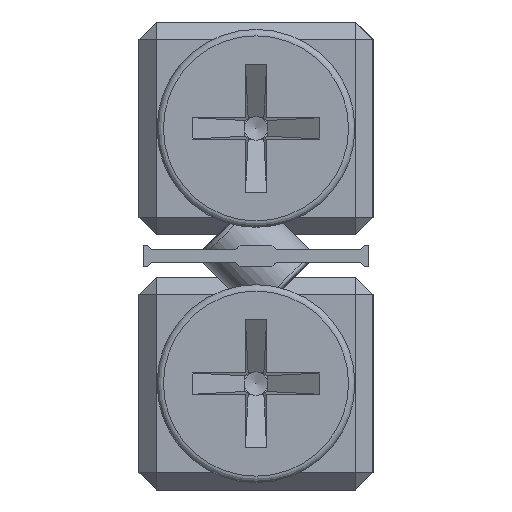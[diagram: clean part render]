
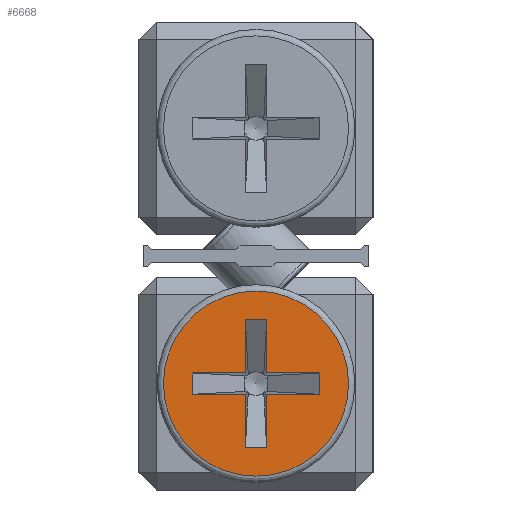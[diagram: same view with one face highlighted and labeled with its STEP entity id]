
A CAD part, left-side view. The second image highlights one B-rep face of the part: STEP entity #6668.
In plain terms, the highlighted planar face has unit normal (-1, 0, 0).
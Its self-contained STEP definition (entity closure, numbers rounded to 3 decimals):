
#134 = CARTESIAN_POINT ( 'NONE',  ( -122., -3., 4.5 ) ) ;
#184 = ORIENTED_EDGE ( 'NONE', *, *, #17840, .T. ) ;
#492 = CARTESIAN_POINT ( 'NONE',  ( -122., -0.5, 5.5 ) ) ;
#641 = CARTESIAN_POINT ( 'NONE',  ( -122., 3., 4.5 ) ) ;
#872 = DIRECTION ( 'NONE',  ( 0., -1., 0. ) ) ;
#980 = VECTOR ( 'NONE', #1350, 1000. ) ;
#1247 = CARTESIAN_POINT ( 'NONE',  ( -122., -3., 5.5 ) ) ;
#1350 = DIRECTION ( 'NONE',  ( 0., 0., 1. ) ) ;
#1475 = CARTESIAN_POINT ( 'NONE',  ( -122., -3., 4.5 ) ) ;
#1591 = LINE ( 'NONE', #12354, #20165 ) ;
#1628 = VERTEX_POINT ( 'NONE', #22168 ) ;
#2285 = DIRECTION ( 'NONE',  ( 1., 0., 0. ) ) ;
#2554 = EDGE_CURVE ( 'NONE', #12954, #13789, #15596, .T. ) ;
#2721 = CARTESIAN_POINT ( 'NONE',  ( -122., 0.5, 2. ) ) ;
#3887 = EDGE_CURVE ( 'NONE', #17041, #6264, #7364, .T. ) ;
#4126 = CIRCLE ( 'NONE', #12129, 4.35 ) ;
#4462 = CARTESIAN_POINT ( 'NONE',  ( -122., 3., 5.5 ) ) ;
#4594 = EDGE_CURVE ( 'NONE', #11385, #22025, #7190, .T. ) ;
#4683 = ORIENTED_EDGE ( 'NONE', *, *, #17734, .T. ) ;
#4940 = ORIENTED_EDGE ( 'NONE', *, *, #12789, .T. ) ;
#4975 = DIRECTION ( 'NONE',  ( 0., 0., -1. ) ) ;
#5082 = ORIENTED_EDGE ( 'NONE', *, *, #22838, .T. ) ;
#5207 = VERTEX_POINT ( 'NONE', #7359 ) ;
#5209 = DIRECTION ( 'NONE',  ( -1., 0., 0. ) ) ;
#5310 = DIRECTION ( 'NONE',  ( 0., 0., -1. ) ) ;
#5389 = DIRECTION ( 'NONE',  ( 0., 1., 0. ) ) ;
#5461 = VECTOR ( 'NONE', #10229, 1000. ) ;
#5525 = ORIENTED_EDGE ( 'NONE', *, *, #3887, .T. ) ;
#5684 = DIRECTION ( 'NONE',  ( 0., -1., 0. ) ) ;
#5730 = EDGE_CURVE ( 'NONE', #14749, #1628, #20899, .T. ) ;
#5864 = FACE_OUTER_BOUND ( 'NONE', #17237, .T. ) ;
#5990 = DIRECTION ( 'NONE',  ( 0., 0., -1. ) ) ;
#6264 = VERTEX_POINT ( 'NONE', #9269 ) ;
#6341 = VECTOR ( 'NONE', #5310, 1000. ) ;
#6439 = DIRECTION ( 'NONE',  ( 0., -1., 0. ) ) ;
#6546 = LINE ( 'NONE', #8561, #20491 ) ;
#6668 = ADVANCED_FACE ( 'NONE', ( #5864, #20438 ), #11390, .F. ) ;
#6752 = DIRECTION ( 'NONE',  ( 0., 1., 0. ) ) ;
#7029 = VECTOR ( 'NONE', #11337, 1000. ) ;
#7190 = LINE ( 'NONE', #134, #12798 ) ;
#7319 = CARTESIAN_POINT ( 'NONE',  ( -122., 0.5, 2. ) ) ;
#7359 = CARTESIAN_POINT ( 'NONE',  ( -122., 3., 5.5 ) ) ;
#7364 = LINE ( 'NONE', #20840, #18136 ) ;
#7424 = VERTEX_POINT ( 'NONE', #20268 ) ;
#8561 = CARTESIAN_POINT ( 'NONE',  ( -122., 0.5, 2. ) ) ;
#8700 = ORIENTED_EDGE ( 'NONE', *, *, #8792, .F. ) ;
#8792 = EDGE_CURVE ( 'NONE', #5207, #14447, #1591, .T. ) ;
#8842 = ORIENTED_EDGE ( 'NONE', *, *, #5730, .T. ) ;
#8886 = DIRECTION ( 'NONE',  ( 0., 0., -1. ) ) ;
#8967 = CARTESIAN_POINT ( 'NONE',  ( -122., 0., 0.65 ) ) ;
#9269 = CARTESIAN_POINT ( 'NONE',  ( -122., 0.5, 4.5 ) ) ;
#9284 = LINE ( 'NONE', #14544, #7029 ) ;
#9509 = CARTESIAN_POINT ( 'NONE',  ( -122., 3., 5.5 ) ) ;
#9944 = EDGE_LOOP ( 'NONE', ( #8842, #17706, #11452, #184, #13796, #11056, #10651, #11834, #5525, #5082, #8700, #4683 ) ) ;
#10021 = DIRECTION ( 'NONE',  ( 0., 0., 1. ) ) ;
#10229 = DIRECTION ( 'NONE',  ( 0., 0., -1. ) ) ;
#10651 = ORIENTED_EDGE ( 'NONE', *, *, #20698, .T. ) ;
#10775 = EDGE_CURVE ( 'NONE', #12954, #1628, #9284, .T. ) ;
#10827 = CARTESIAN_POINT ( 'NONE',  ( -122., 0., 5. ) ) ;
#11056 = ORIENTED_EDGE ( 'NONE', *, *, #4594, .T. ) ;
#11337 = DIRECTION ( 'NONE',  ( 0., 1., 0. ) ) ;
#11385 = VERTEX_POINT ( 'NONE', #11733 ) ;
#11390 = PLANE ( 'NONE',  #22955 ) ;
#11452 = ORIENTED_EDGE ( 'NONE', *, *, #2554, .T. ) ;
#11733 = CARTESIAN_POINT ( 'NONE',  ( -122., -3., 4.5 ) ) ;
#11834 = ORIENTED_EDGE ( 'NONE', *, *, #21321, .F. ) ;
#12129 = AXIS2_PLACEMENT_3D ( 'NONE', #10827, #5209, #4975 ) ;
#12354 = CARTESIAN_POINT ( 'NONE',  ( -122., 3., 5.5 ) ) ;
#12439 = VERTEX_POINT ( 'NONE', #8967 ) ;
#12789 = EDGE_CURVE ( 'NONE', #12439, #12439, #4126, .T. ) ;
#12798 = VECTOR ( 'NONE', #5389, 1000. ) ;
#12954 = VERTEX_POINT ( 'NONE', #13229 ) ;
#12976 = LINE ( 'NONE', #9509, #18525 ) ;
#13214 = EDGE_CURVE ( 'NONE', #11385, #22844, #13908, .T. ) ;
#13229 = CARTESIAN_POINT ( 'NONE',  ( -122., -0.5, 8. ) ) ;
#13675 = VECTOR ( 'NONE', #10021, 1000. ) ;
#13789 = VERTEX_POINT ( 'NONE', #492 ) ;
#13796 = ORIENTED_EDGE ( 'NONE', *, *, #13214, .F. ) ;
#13891 = LINE ( 'NONE', #4462, #22733 ) ;
#13908 = LINE ( 'NONE', #1475, #980 ) ;
#14447 = VERTEX_POINT ( 'NONE', #641 ) ;
#14544 = CARTESIAN_POINT ( 'NONE',  ( -122., -0.5, 8. ) ) ;
#14749 = VERTEX_POINT ( 'NONE', #18414 ) ;
#15596 = LINE ( 'NONE', #19527, #5461 ) ;
#17041 = VERTEX_POINT ( 'NONE', #7319 ) ;
#17237 = EDGE_LOOP ( 'NONE', ( #4940 ) ) ;
#17624 = CARTESIAN_POINT ( 'NONE',  ( -122., -3., 4.5 ) ) ;
#17706 = ORIENTED_EDGE ( 'NONE', *, *, #10775, .F. ) ;
#17734 = EDGE_CURVE ( 'NONE', #5207, #14749, #12976, .T. ) ;
#17840 = EDGE_CURVE ( 'NONE', #13789, #22844, #13891, .T. ) ;
#18136 = VECTOR ( 'NONE', #22631, 1000. ) ;
#18414 = CARTESIAN_POINT ( 'NONE',  ( -122., 0.5, 5.5 ) ) ;
#18525 = VECTOR ( 'NONE', #5684, 1000. ) ;
#18658 = CARTESIAN_POINT ( 'NONE',  ( -122., 4.65, 5. ) ) ;
#19409 = LINE ( 'NONE', #17624, #20898 ) ;
#19527 = CARTESIAN_POINT ( 'NONE',  ( -122., -0.5, 8. ) ) ;
#20165 = VECTOR ( 'NONE', #8886, 1000. ) ;
#20268 = CARTESIAN_POINT ( 'NONE',  ( -122., -0.5, 2. ) ) ;
#20438 = FACE_BOUND ( 'NONE', #9944, .T. ) ;
#20491 = VECTOR ( 'NONE', #6439, 1000. ) ;
#20698 = EDGE_CURVE ( 'NONE', #22025, #7424, #21419, .T. ) ;
#20840 = CARTESIAN_POINT ( 'NONE',  ( -122., 0.5, 2. ) ) ;
#20898 = VECTOR ( 'NONE', #6752, 1000. ) ;
#20899 = LINE ( 'NONE', #2721, #13675 ) ;
#21321 = EDGE_CURVE ( 'NONE', #17041, #7424, #6546, .T. ) ;
#21419 = LINE ( 'NONE', #22983, #6341 ) ;
#22025 = VERTEX_POINT ( 'NONE', #22732 ) ;
#22168 = CARTESIAN_POINT ( 'NONE',  ( -122., 0.5, 8. ) ) ;
#22631 = DIRECTION ( 'NONE',  ( 0., 0., 1. ) ) ;
#22732 = CARTESIAN_POINT ( 'NONE',  ( -122., -0.5, 4.5 ) ) ;
#22733 = VECTOR ( 'NONE', #872, 1000. ) ;
#22838 = EDGE_CURVE ( 'NONE', #6264, #14447, #19409, .T. ) ;
#22844 = VERTEX_POINT ( 'NONE', #1247 ) ;
#22955 = AXIS2_PLACEMENT_3D ( 'NONE', #18658, #2285, #5990 ) ;
#22983 = CARTESIAN_POINT ( 'NONE',  ( -122., -0.5, 8. ) ) ;
